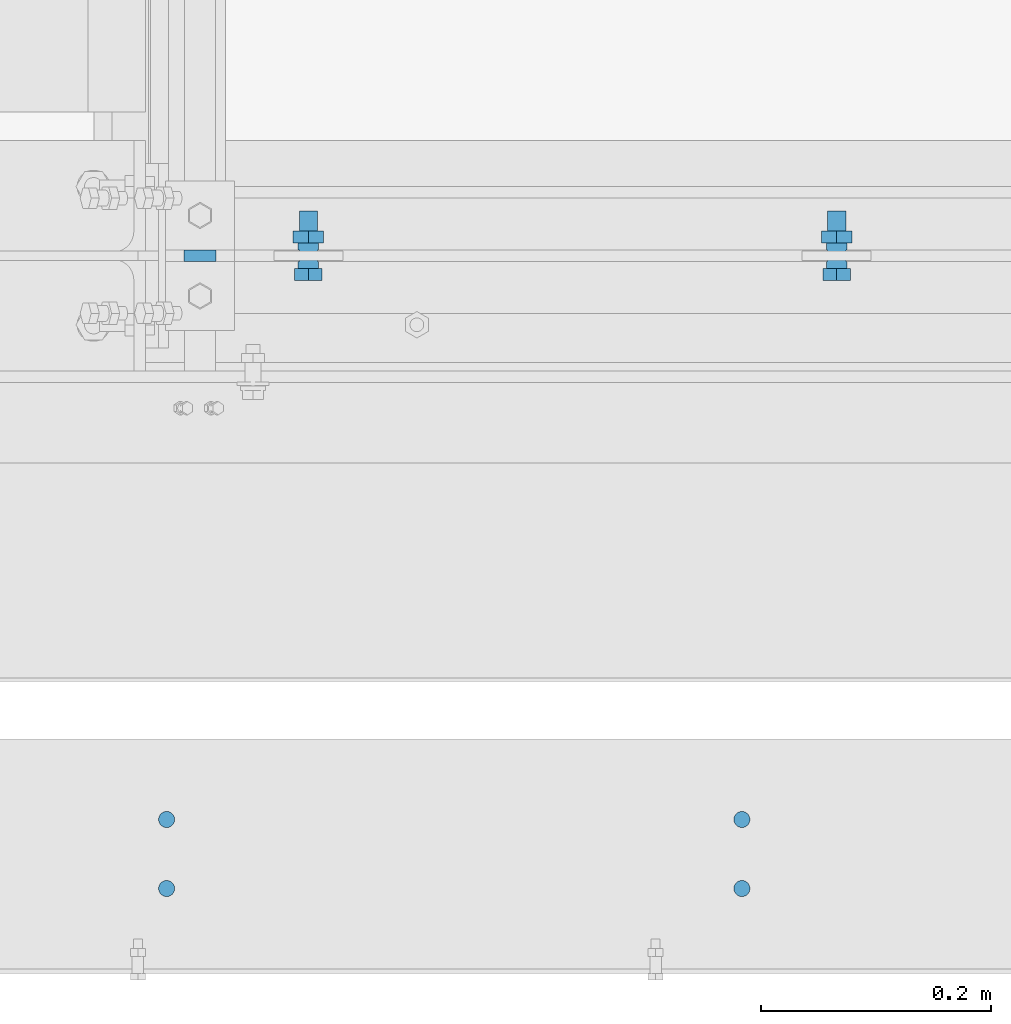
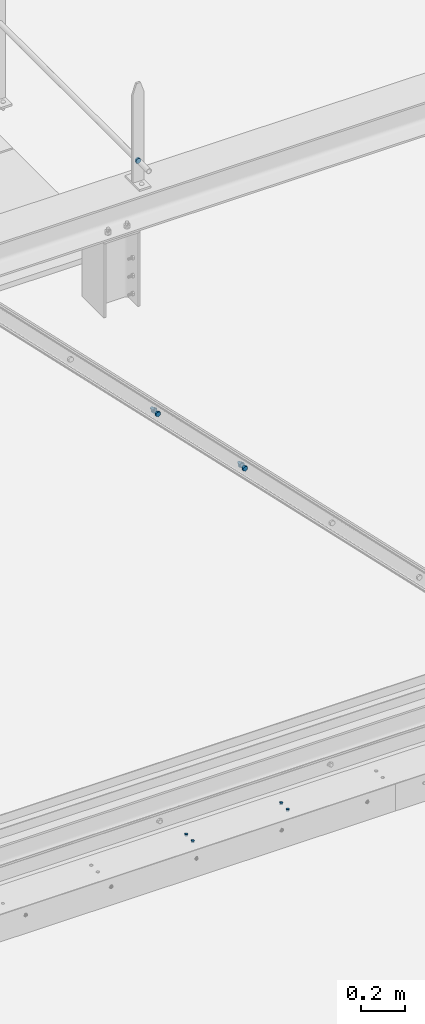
# One storey, part 222 of 362: 6 mechanical fasteners.
"""IFC2X3 building model written with IfcOpenShell, lengths in millimetres."""

import ifcopenshell
import ifcopenshell.guid

model = None  # the IFC model being written
_history = None  # IfcOwnerHistory: only IFC2X3 demands one
_inside = {}  # id of a spatial element -> (the spatial element, [elements in it])
_under = {}  # id of a project, library or spatial element -> (it, [spatial elements below it])
_declared = {}  # id of a project -> (the project, [libraries it declares])
_typed = {}  # id of a type object -> (the type object, [elements of that type])
_made_of = {}  # id of a material, layer set ... -> (it, [elements and type objects made of it])


def new_model(schema):
    """Start an empty IFC model of exactly this schema.

    Asked for "IFC4X3", IfcOpenShell would pick the latest addendum, in which some entities
    have other attributes; the version numbers below select the first issue.
    IFC2X3 requires an IfcOwnerHistory on every rooted entity: one is made here for all.
    """
    global model, _history
    if schema == "IFC4X3":
        model = ifcopenshell.file(schema_version=(4, 3, 0, 0))
    else:
        model = ifcopenshell.file(schema=schema)
    _inside.clear()
    _under.clear()
    _declared.clear()
    _typed.clear()
    _made_of.clear()
    _history = None
    if model.schema == "IFC2X3":
        org = make("IfcOrganization", Name="unknown")
        user = make(
            "IfcPersonAndOrganization",
            ThePerson=make("IfcPerson", FamilyName="unknown"),
            TheOrganization=org,
        )
        app = make(
            "IfcApplication",
            ApplicationDeveloper=org,
            Version="unknown",
            ApplicationFullName="unknown",
            ApplicationIdentifier="unknown",
        )
        _history = make(
            "IfcOwnerHistory",
            OwningUser=user,
            OwningApplication=app,
            ChangeAction="ADDED",
            CreationDate=0,
        )
    return model


def make(cls, **values):
    """One entity of the class cls with the attributes given. An attribute that is None is left unset."""
    return model.create_entity(
        cls, **{name: value for name, value in values.items() if value is not None}
    )


def rooted(cls, **values):
    """An entity with a GlobalId (a new one), such as an element, a storey or a relation."""
    return make(cls, GlobalId=ifcopenshell.guid.new(), OwnerHistory=_history, **values)


def si_unit(unit_type, name, prefix=None):
    """IfcSIUnit, for example si_unit("LENGTHUNIT", "METRE", prefix="MILLI")."""
    return make("IfcSIUnit", UnitType=unit_type, Prefix=prefix, Name=name)


def assignment(units):
    """IfcUnitAssignment: the units of a project."""
    return None if units is None else make("IfcUnitAssignment", Units=units)


def point(xyz):
    """IfcCartesianPoint."""
    return None if xyz is None else make("IfcCartesianPoint", Coordinates=xyz)


def direction(xyz):
    """IfcDirection."""
    return None if xyz is None else make("IfcDirection", DirectionRatios=xyz)


def frame(location, z_axis=None, x_axis=None):
    """IfcAxis2Placement3D, a coordinate frame: its origin and axes. An axis left out is left unset."""
    return make(
        "IfcAxis2Placement3D",
        Location=point(location),
        Axis=direction(z_axis),
        RefDirection=direction(x_axis),
    )


def frame_2d(location, x_axis=None):
    """IfcAxis2Placement2D, a coordinate frame in the plane: its origin and x axis."""
    return make(
        "IfcAxis2Placement2D", Location=point(location), RefDirection=direction(x_axis)
    )


def origin_with_axes():
    """The frame at (0, 0, 0) with the z axis (0, 0, 1) and the x axis (1, 0, 0) written out."""
    return frame((0.0, 0.0, 0.0), z_axis=(0.0, 0.0, 1.0), x_axis=(1.0, 0.0, 0.0))


def origin_2d_with_axis():
    """The frame at (0, 0) in the plane with the x axis (1, 0) written out."""
    return frame_2d((0.0, 0.0), x_axis=(1.0, 0.0))


def place(relative_to, where):
    """IfcLocalPlacement: puts the frame where relative to a parent placement (None: the world)."""
    return make(
        "IfcLocalPlacement", PlacementRelTo=relative_to, RelativePlacement=where
    )


def context(
    kind, dimensions, precision=None, world=None, true_north=None, identifier=None
):
    """IfcGeometricRepresentationContext, for example the 3D "Model" context."""
    return make(
        "IfcGeometricRepresentationContext",
        ContextIdentifier=identifier,
        ContextType=kind,
        CoordinateSpaceDimension=dimensions,
        Precision=precision,
        WorldCoordinateSystem=world,
        TrueNorth=true_north,
    )


def subcontext(parent, identifier, kind, view, scale=None):
    """IfcGeometricRepresentationSubContext, for example "Body" below "Model"."""
    return make(
        "IfcGeometricRepresentationSubContext",
        ContextIdentifier=identifier,
        ContextType=kind,
        ParentContext=parent,
        TargetScale=scale,
        TargetView=view,
    )


def project(units=None, contexts=None):
    """IfcProject with its units and contexts."""
    return rooted(
        "IfcProject",
        Name="project",
        RepresentationContexts=contexts,
        UnitsInContext=assignment(units),
    )


def spatial(cls, under=None, at=None, **own):
    """A site, building, storey or space (cls), placed at a placement, below another one or the project."""
    s = rooted(cls, ObjectPlacement=at, **own)
    if under is not None:
        _under.setdefault(under.id(), (under, []))[1].append(s)
    return s


def polyline(points):
    """IfcPolyline through the points."""
    return make("IfcPolyline", Points=[point(p) for p in points])


def profile(cls, at=None, kind="AREA", **sizes):
    """A parametric profile (cls). Its sizes go by their IFC names, for example OverallWidth=200.0."""
    return make(cls, ProfileType=kind, Position=at, **sizes)


def circle(**sizes):
    """IfcCircleProfileDef."""
    return profile("IfcCircleProfileDef", **sizes)


def outline(outer, holes=None, kind="AREA"):
    """IfcArbitraryClosedProfileDef: a profile drawn as a closed curve; with holes, ...WithVoids."""
    if holes is None:
        return make("IfcArbitraryClosedProfileDef", ProfileType=kind, OuterCurve=outer)
    return make(
        "IfcArbitraryProfileDefWithVoids",
        ProfileType=kind,
        OuterCurve=outer,
        InnerCurves=holes,
    )


def extrude(swept, where, along, depth):
    """IfcExtrudedAreaSolid: the profile swept, set in the frame where, extruded along a direction by depth."""
    return make(
        "IfcExtrudedAreaSolid",
        SweptArea=swept,
        Position=where,
        ExtrudedDirection=direction(along),
        Depth=depth,
    )


def shape(context_of_items, identifier, shape_type, items):
    """IfcShapeRepresentation: the items that make up one representation, for example the "Body"."""
    return make(
        "IfcShapeRepresentation",
        ContextOfItems=context_of_items,
        RepresentationIdentifier=identifier,
        RepresentationType=shape_type,
        Items=items,
    )


def source(mapping_origin, context_of_items, identifier, shape_type, items):
    """IfcRepresentationMap: a shape defined once, which mapped items show again and again."""
    return make(
        "IfcRepresentationMap",
        MappingOrigin=mapping_origin,
        MappedRepresentation=shape(context_of_items, identifier, shape_type, items),
    )


def transform(
    local_origin,
    x_axis=None,
    y_axis=None,
    z_axis=None,
    scale=None,
    scale2=None,
    scale3=None,
    uniform=True,
):
    """IfcCartesianTransformationOperator3D, or its non-uniform kind. x_axis, y_axis, z_axis: its Axis1, 2, 3."""
    if uniform:
        return make(
            "IfcCartesianTransformationOperator3D",
            Axis1=direction(x_axis),
            Axis2=direction(y_axis),
            LocalOrigin=point(local_origin),
            Scale=scale,
            Axis3=direction(z_axis),
        )
    return make(
        "IfcCartesianTransformationOperator3DnonUniform",
        Axis1=direction(x_axis),
        Axis2=direction(y_axis),
        LocalOrigin=point(local_origin),
        Scale=scale,
        Axis3=direction(z_axis),
        Scale2=scale2,
        Scale3=scale3,
    )


def mapped(mapping_source, mapping_target):
    """IfcMappedItem: shows the shape of a source again, moved by a transform."""
    return make(
        "IfcMappedItem", MappingSource=mapping_source, MappingTarget=mapping_target
    )


def material(Name=None, Category=None):
    """IfcMaterial."""
    return make("IfcMaterial", Name=Name, Category=Category)


def made_of(thing, what):
    """Note that an element or type object is made of a material, layer set ...; save() writes the relation."""
    if what is not None:
        _made_of.setdefault(what.id(), (what, []))[1].append(thing)
    return thing


def type_object(cls, material=None, **own):
    """A type object (cls), such as IfcWallType, which elements share."""
    return made_of(rooted(cls, **own), material)


def element(
    cls,
    number,
    at=None,
    inside=None,
    cuts=None,
    type_object=None,
    material=None,
    context=None,
    identifier="Body",
    shape_type=None,
    held_by="IfcProductDefinitionShape",
    body=None,
    shapes=None,
    **own,
):
    """One element of the class cls, such as IfcWall. Its Tag is "e" and its number.

    at: its placement. inside: the storey or other place that contains it. cuts: it is an
    opening in that element (IfcRelVoidsElement). A single representation is given by context,
    identifier, shape_type and body (its items); several are given by shapes. held_by: the class
    of the entity that holds the representations. save() writes the other relations.
    """
    e = rooted(cls, Tag="e%d" % number, ObjectPlacement=at, **own)
    if body is not None:
        shapes = [shape(context, identifier, shape_type, body)]
    if shapes is not None:
        e.Representation = make(held_by, Representations=shapes)
    if inside is not None:
        _inside.setdefault(inside.id(), (inside, []))[1].append(e)
    if cuts is not None:
        rooted(
            "IfcRelVoidsElement", RelatingBuildingElement=cuts, RelatedOpeningElement=e
        )
    if type_object is not None:
        _typed.setdefault(type_object.id(), (type_object, []))[1].append(e)
    return made_of(e, material)


def aggregate(whole, parts):
    """IfcRelAggregates: a whole, such as a stair, and the parts it consists of."""
    return rooted("IfcRelAggregates", RelatingObject=whole, RelatedObjects=parts)


def save(model, path):
    """Write the relations noted so far, then the file.

    IfcRelAggregates (storeys below a building ...), IfcRelContainedInSpatialStructure (elements
    in a storey), IfcRelDefinesByType, IfcRelAssociatesMaterial and IfcRelDeclares: one each for
    every whole, place, type object, material and project.
    """
    for whole, parts in _under.values():
        aggregate(whole, parts)
    for where, things in _inside.values():
        rooted(
            "IfcRelContainedInSpatialStructure",
            RelatedElements=things,
            RelatingStructure=where,
        )
    for kind, things in _typed.values():
        rooted("IfcRelDefinesByType", RelatedObjects=things, RelatingType=kind)
    for what, things in _made_of.values():
        rooted("IfcRelAssociatesMaterial", RelatedObjects=things, RelatingMaterial=what)
    for by, libraries in _declared.values():
        rooted("IfcRelDeclares", RelatingContext=by, RelatedDefinitions=libraries)
    model.write(path)


model = new_model("IFC2X3")

# Units and contexts
model_context = context("Model", 3, precision=1e-05, world=origin_with_axes())
body_context = subcontext(model_context, "Body", "Model", "MODEL_VIEW")
ifc_project = project(units=[si_unit("LENGTHUNIT", "METRE", prefix="MILLI"), si_unit("AREAUNIT", "SQUARE_METRE"), si_unit("VOLUMEUNIT", "CUBIC_METRE"), si_unit("MASSUNIT", "GRAM", prefix="KILO"), si_unit("TIMEUNIT", "SECOND"), si_unit("PLANEANGLEUNIT", "RADIAN"), si_unit("SOLIDANGLEUNIT", "STERADIAN"), si_unit("THERMODYNAMICTEMPERATUREUNIT", "DEGREE_CELSIUS"), si_unit("LUMINOUSINTENSITYUNIT", "LUMEN")], contexts=[model_context])

# Site, building, storey
site_placement = place(None, origin_with_axes())
site = spatial("IfcSite", under=ifc_project, at=site_placement, Name="Undefined", CompositionType="ELEMENT")
building_placement = place(site_placement, origin_with_axes())
building = spatial("IfcBuilding", under=site, at=building_placement, Name="Undefined", CompositionType="ELEMENT")
storey_placement = place(building_placement, origin_with_axes())
storey = spatial("IfcBuildingStorey", under=building, at=storey_placement, Name="Undefined", CompositionType="ELEMENT", Elevation=0.0)

# Mechanical fasteners
ifc_material_1 = material(Name="8.8-SB-ZINGUE")
mechanical_fastener_type = type_object("IfcMechanicalFastenerType", Name="Bolt assembly")
shared_shape_1 = source(origin_with_axes(), body_context, "Body", "SweptSolid", [
    extrude(circle(Radius=7.0, at=origin_2d_with_axis()), frame((0.0, -8.5, 0.0), z_axis=(0.0, 1.0, 0.0), x_axis=(1.0, 0.0, 0.0)), (0.0, 0.0, 1.0), 8.6),
])
for number, where, z_axis, x_axis, name in (
    (1, (14464.9989211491, -490.0, 5229.99824538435), (-1.0, 0.0, 0.0), (0.0, -1.0, 0.0), "Bolt assembly"),
    (2, (13964.9989211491, -490.0, 5229.99824538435), (-1.0, 0.0, 0.0), (0.0, -1.0, 0.0), "Bolt assembly"),
):
    element("IfcMechanicalFastener", number, at=place(storey_placement, frame(where, z_axis=z_axis, x_axis=x_axis)), inside=storey, type_object=mechanical_fastener_type, material=ifc_material_1, Name=name, NominalDiameter=12.0, NominalLength=8.5, context=body_context, shape_type="MappedRepresentation", body=[
        mapped(shared_shape_1, transform((0.0, 0.0, 0.0))),
        mapped(shared_shape_1, transform((60.0, 0.0, 0.0))),
    ])
shared_shape_2 = source(origin_with_axes(), body_context, "Body", "SweptSolid", [
    extrude(circle(Radius=9.0, at=origin_2d_with_axis()), frame((0.0, -10.9000000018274, 0.0), z_axis=(0.0, 1.0, 0.0), x_axis=(1.0, 0.0, 0.0)), (0.0, 0.0, 1.0), 6.0),
    extrude(circle(Radius=9.0, at=origin_2d_with_axis()), frame((0.0, 4.9000000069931, 0.0), z_axis=(0.0, 1.0, 0.0), x_axis=(1.0, 0.0, 0.0)), (0.0, 0.0, 1.0), 6.1),
    extrude(circle(Radius=9.0, at=origin_2d_with_axis()), frame((0.0, -3.99999923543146, 0.0), z_axis=(0.0, 1.0, 0.0), x_axis=(1.0, 0.0, 0.0)), (0.0, 0.0, 1.0), 8.0),
    extrude(outline(polyline([(13.85640646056, 0.0), (6.92820323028, 12.0000000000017), (-6.92820323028, 12.0000000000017), (-13.85640646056, 0.0), (-6.92820323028, -12.0000000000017), (6.92820323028, -12.0000000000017), (13.85640646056, 0.0)])), frame((0.0, -21.5600000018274, 0.0), z_axis=(0.0, 1.0, 0.0), x_axis=(1.0, 0.0, 0.0)), (0.0, 0.0, 1.0), 10.56),
    extrude(circle(Radius=8.0, at=origin_2d_with_axis()), frame((0.0, -11.0000000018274, 0.0), z_axis=(0.0, 1.0, 0.0), x_axis=(1.0, 0.0, 0.0)), (0.0, 0.0, 1.0), 50.0),
    extrude(outline(polyline([(15.3344231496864, 0.0), (7.6672115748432, 13.2800000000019), (-7.6672115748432, 13.2800000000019), (-15.3344231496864, 0.0), (-7.6672115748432, -13.2800000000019), (7.6672115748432, -13.2800000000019), (15.3344231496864, 0.0)])), frame((0.0, 11.0000000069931, 0.0), z_axis=(0.0, 1.0, 0.0), x_axis=(1.0, 0.0, 0.0)), (0.0, 0.0, 1.0), 10.56),
])
for number, where, z_axis, x_axis, name in (
    (3, (14547.3644474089, 0.0, 6774.99993013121), (1.0, 0.0, 0.0), (0.0, 0.0, -1.0), "Bolt assembly"),
    (4, (14088.1916796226, 0.0, 7239.3384278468), (1.0, 0.0, 0.0), (0.0, 0.0, -1.0), "Bolt assembly"),
):
    element("IfcMechanicalFastener", number, at=place(storey_placement, frame(where, z_axis=z_axis, x_axis=x_axis)), inside=storey, type_object=mechanical_fastener_type, material=ifc_material_1, Name=name, NominalDiameter=16.0, NominalLength=50.0, context=body_context, shape_type="MappedRepresentation", body=[
        mapped(shared_shape_2, transform((0.0, 0.0, 0.0))),
    ])
ifc_material_2 = material(Name="6.8")
shared_shape_3 = source(origin_with_axes(), body_context, "Body", "SweptSolid", [
    extrude(circle(Radius=14.0, at=origin_2d_with_axis()), frame((0.0, -5.00000000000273, 0.0), z_axis=(0.0, 1.0, 0.0), x_axis=(1.0, 0.0, 0.0)), (0.0, 0.0, 1.0), 10.1),
])
for number, where, z_axis, x_axis, name in (
    (5, (13993.9998838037, 2.30473006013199e-07, 8673.8000065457), (0.0, 0.0, 1.0), (-1.0, 0.0, 0.0), "Bolt assembly"),
    (6, (13993.9998838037, 2.30473006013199e-07, 8673.8000065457), (0.0, 0.0, 1.0), (-1.0, 0.0, 0.0), "Bolt assembly"),
):
    element("IfcMechanicalFastener", number, at=place(storey_placement, frame(where, z_axis=z_axis, x_axis=x_axis)), inside=storey, type_object=mechanical_fastener_type, material=ifc_material_2, Name=name, NominalDiameter=27.0, NominalLength=10.0, context=body_context, shape_type="MappedRepresentation", body=[
        mapped(shared_shape_3, transform((0.0, 0.0, 0.0))),
    ])

save(model, "model.ifc")
